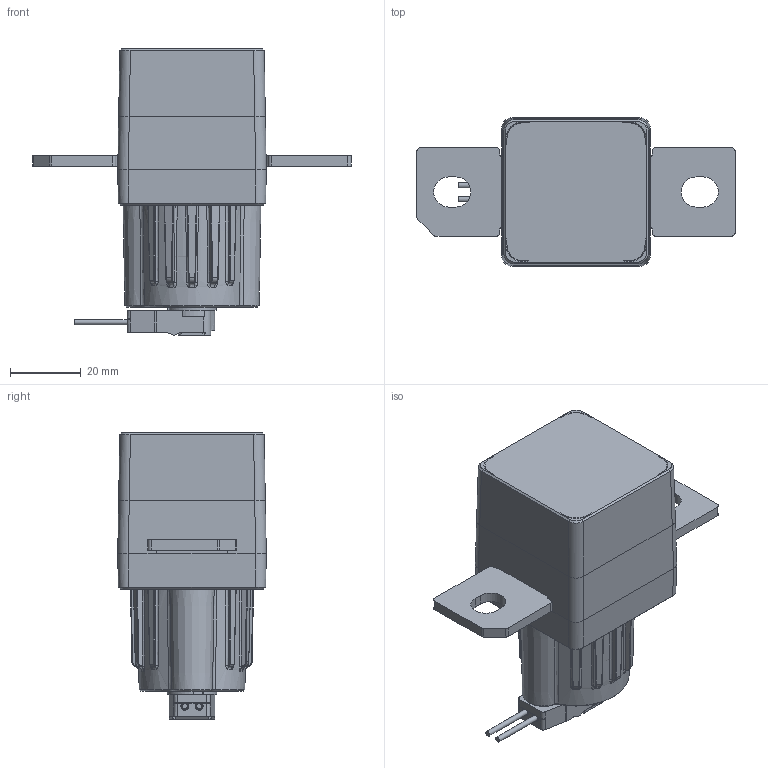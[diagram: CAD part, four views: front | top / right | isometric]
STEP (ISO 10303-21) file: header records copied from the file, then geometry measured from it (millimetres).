
FILE_DESCRIPTION(/* description */ ('Unknown'),/* implementation_level */ '2;1');
FILE_NAME(/* name */ '零件3',/* time_stamp */ '2025-07-15T08:50:46+08:00',/* author */ ('Unknown'),/* organization */ ('Unknown'),/* preprocessor_version */ 'ST-DEVELOPER v16.7',/* originating_system */ 'Solid Edge',/* authorisation */ 'Unknown');
FILE_SCHEMA (('AUTOMOTIVE_DESIGN {1 0 10303 214 3 1 1}'));
Length unit declared in the file: millimetre
Products named in the file (1): 錨璃3
Bounding box: 90 x 42 x 81 mm (x, y, z)
Volume: 105030.4 mm3; surface area: 18182.6 mm2
Topology: 1 solids, 6 shells, 647 faces, 1647 edges, 1010 vertices
Faces by surface type: plane 252, bspline 164, cylinder 152, cone 63, torus 16
Full cylindrical faces by diameter (mm): 1.5 x2, 6 x2, 14.5 x1
Entity records: 25222 total; most frequent: CARTESIAN_POINT 11078, ORIENTED_EDGE 3226, DIRECTION 2527, EDGE_CURVE 1613, VERTEX_POINT 1003, AXIS2_PLACEMENT_3D 921, LINE 685, VECTOR 685
